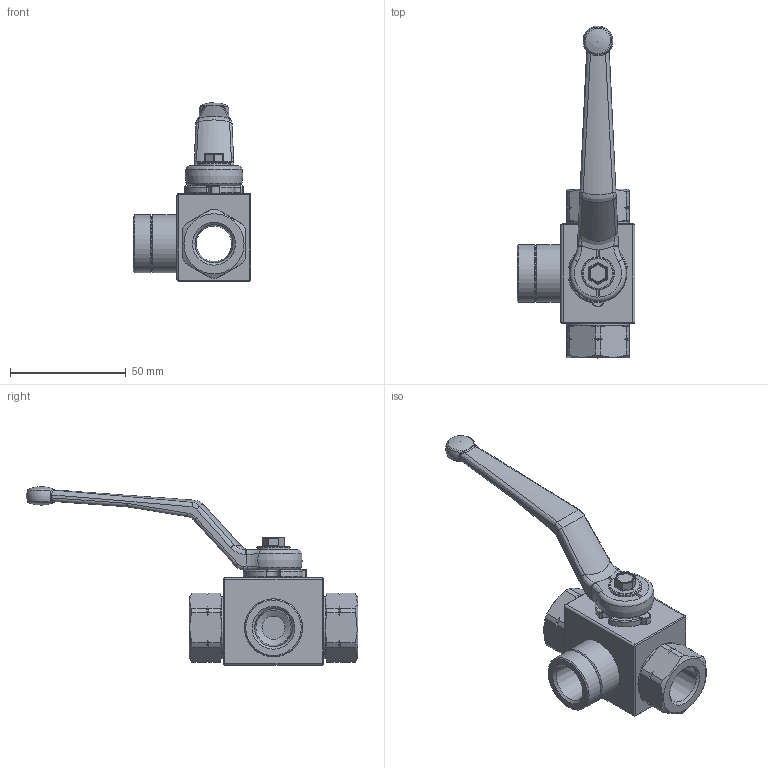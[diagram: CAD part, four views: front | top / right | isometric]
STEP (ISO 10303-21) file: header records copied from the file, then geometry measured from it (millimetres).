
FILE_DESCRIPTION( ( 'Unknown' ), '1' );
FILE_NAME( 'H:/PISTER/3D-MODELLE/BK3 stp/BK3 DN10 3_8 NPT.stp', 'Unknown', ( 'Unknown' ), ( 'Unknown' ), 'PSStep 14.0', 'Unknown', ' ' );
FILE_SCHEMA( ( 'AUTOMOTIVE_DESIGN { 1 0 10303 214 1 1 1 1 }' ) );
Length unit declared in the file: millimetre
Products named in the file (10): Assem1; 06-010-104-oa7; 09-09-002; 58-28740-07-oa8; Griff_SW9; 58-0933-133; 04-010-103-oa9; 04-010-103-oa10; 01-010-046-oa11; 04-010-091-oa12
Assembly tree (9 placements, depth 2):
  Assem1
    06-010-104-oa7
    09-09-002
    58-28740-07-oa8
    Griff_SW9
    58-0933-133
    04-010-103-oa9
    04-010-103-oa10
    01-010-046-oa11
    04-010-091-oa12
Bounding box: 51 x 143.5 x 77.3 mm (x, y, z)
Volume: 39982 mm3; surface area: 30143.2 mm2
Topology: 9 solids, 9 shells, 413 faces, 1038 edges, 628 vertices
Faces by surface type: cylinder 137, plane 120, cone 56, bspline 42, torus 38, sphere 20
Full cylindrical faces by diameter (mm): 4.2 x1, 4.98 x1, 5 x1, 10 x1, 14 x2, 14.3 x1, 15.281 x3, 25 x4, 25.1 x1, 27 x2, 27.5 x2
Entity records: 17030 total; most frequent: CARTESIAN_POINT 4344, DIRECTION 1975, ORIENTED_EDGE 1890, EDGE_CURVE 945, AXIS2_PLACEMENT_3D 807, VERTEX_POINT 605, EDGE_LOOP 488, FACE_OUTER_BOUND 442
